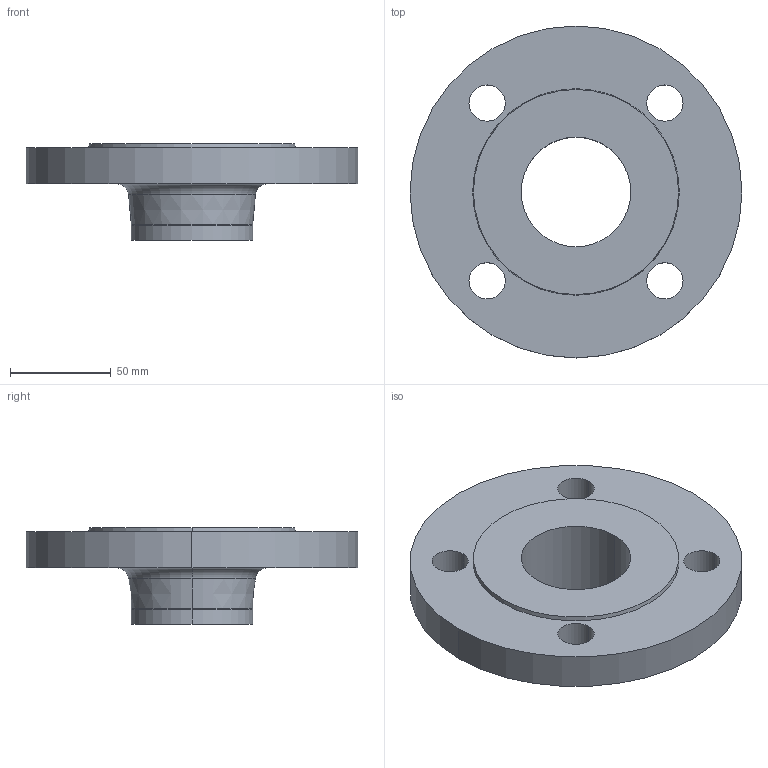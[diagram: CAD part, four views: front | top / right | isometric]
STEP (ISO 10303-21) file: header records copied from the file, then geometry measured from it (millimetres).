
FILE_DESCRIPTION (( 'STEP AP214' ), '1' );
FILE_NAME ('PN40 DN50 Type 11 - Type B Face.STEP', '2018-12-30T04:37:14', ( '' ), ( '' ), 'SwSTEP 2.0', 'SolidWorks 2019', '' );
FILE_SCHEMA (( 'AUTOMOTIVE_DESIGN' ));
Length unit declared in the file: millimetre
Products named in the file (1): PN40 DN50 Type 11 - Type B Face
Bounding box: 165 x 165 x 48 mm (x, y, z)
Volume: 355983.6 mm3; surface area: 62895.1 mm2
Topology: 1 solids, 1 shells, 26 faces, 60 edges, 38 vertices
Faces by surface type: cylinder 14, cone 4, torus 4, plane 4
Entity records: 812 total; most frequent: DIRECTION 156, CARTESIAN_POINT 125, ORIENTED_EDGE 120, AXIS2_PLACEMENT_3D 69, EDGE_CURVE 60, CIRCLE 42, VERTEX_POINT 38, EDGE_LOOP 38
